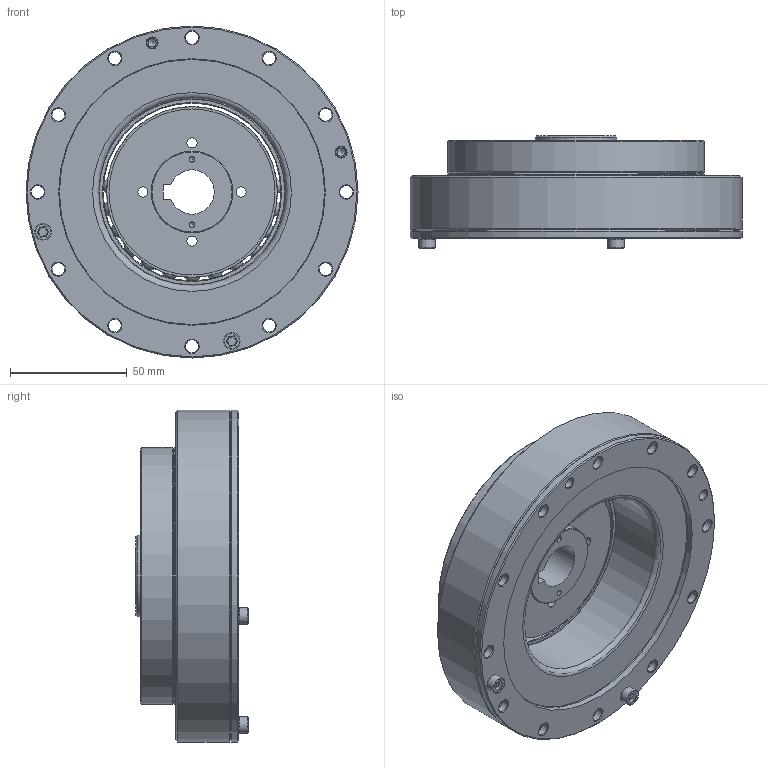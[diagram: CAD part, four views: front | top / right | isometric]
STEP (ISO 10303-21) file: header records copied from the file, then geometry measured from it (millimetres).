
FILE_DESCRIPTION(/* description */ (''),/* implementation_level */ '2;1');
FILE_NAME(/* name */ 'LHT-32',/* time_stamp */ '2017-09-16T13:23:21+08:00',/* author */ (''),/* organization */ (''),/* preprocessor_version */ 'ST-DEVELOPER v9',/* originating_system */ 'UGS - NX 4.0',/* authorisation */ '');
FILE_SCHEMA (('AUTOMOTIVE_DESIGN { 1 0 10303 214 1 1 1 1 }'));
Length unit declared in the file: millimetre
Products named in the file (1): Admi7ED1chiq
Bounding box: 142 x 48 x 142 mm (x, y, z)
Volume: 376127.1 mm3; surface area: 162984.3 mm2
Topology: 28 solids, 28 shells, 536 faces, 1419 edges, 933 vertices
Faces by surface type: cylinder 237, cone 129, plane 129, torus 26, sphere 13, revolution 2
Full cylindrical faces by diameter (mm): 2.459 x2, 3.432 x16, 4.351 x20, 4.5 x17, 5.5 x40, 7 x5, 7.5 x4, 35 x2, 59 x1, 60 x1, 64 x2, 67 x1, 71 x1, 73 x1, 76 x1, 80 x2, 82 x1, 83 x2, 88 x1, 90 x1, 92.6 x1, 109.75 x2, 110 x1, 114 x1, 120 x1, 123.8 x1, 142 x2
Entity records: 13761 total; most frequent: DIRECTION 2578, CARTESIAN_POINT 2156, ORIENTED_EDGE 1754, AXIS2_PLACEMENT_3D 1162, EDGE_LOOP 958, EDGE_CURVE 877, VERTEX_POINT 740, FACE_BOUND 642
